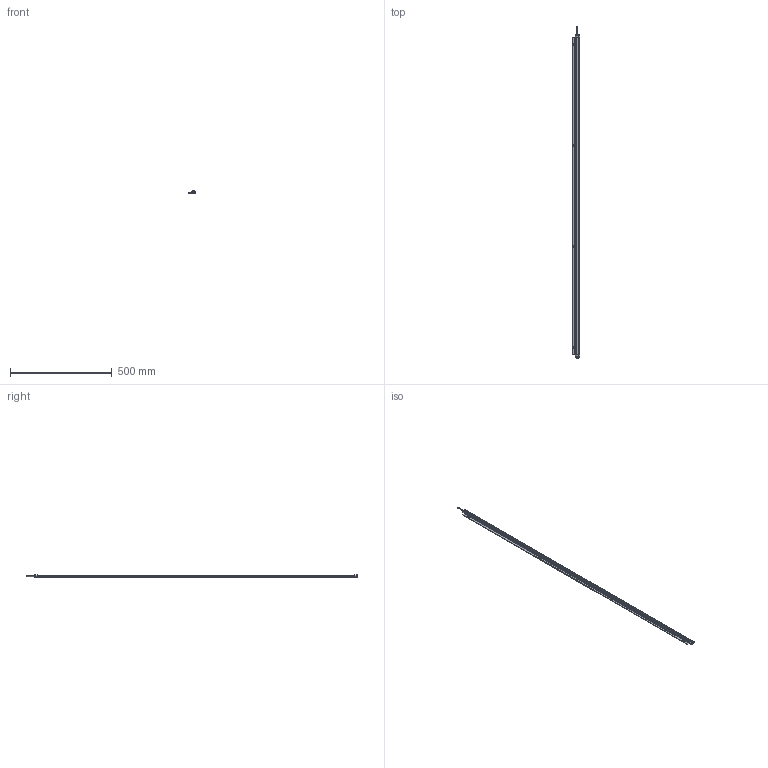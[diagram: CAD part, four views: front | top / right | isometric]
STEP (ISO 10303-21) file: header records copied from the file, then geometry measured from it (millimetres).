
FILE_DESCRIPTION (( 'STEP AP214' ), '1' );
FILE_NAME ('ILGA-L-K1-1590mm.STEP', '2026-04-24T23:07:24', ( '' ), ( '' ), 'SwSTEP 2.0', 'SolidWorks 2025', '' );
FILE_SCHEMA (( 'AUTOMOTIVE_DESIGN' ));
Length unit declared in the file: millimetre
Products named in the file (1): ILGA-L-K1-1590mm
Bounding box: 35 x 1630 x 10.7 mm (x, y, z)
Volume: 165327.4 mm3; surface area: 245019 mm2
Topology: 9 solids, 9 shells, 680 faces, 1768 edges, 1080 vertices
Faces by surface type: plane 293, cylinder 245, cone 60, torus 42, bspline 24, sphere 16
Entity records: 28575 total; most frequent: CARTESIAN_POINT 4429, DIRECTION 3606, ORIENTED_EDGE 3448, EDGE_CURVE 1724, AXIS2_PLACEMENT_3D 1345, VERTEX_POINT 1080, LINE 916, VECTOR 916
